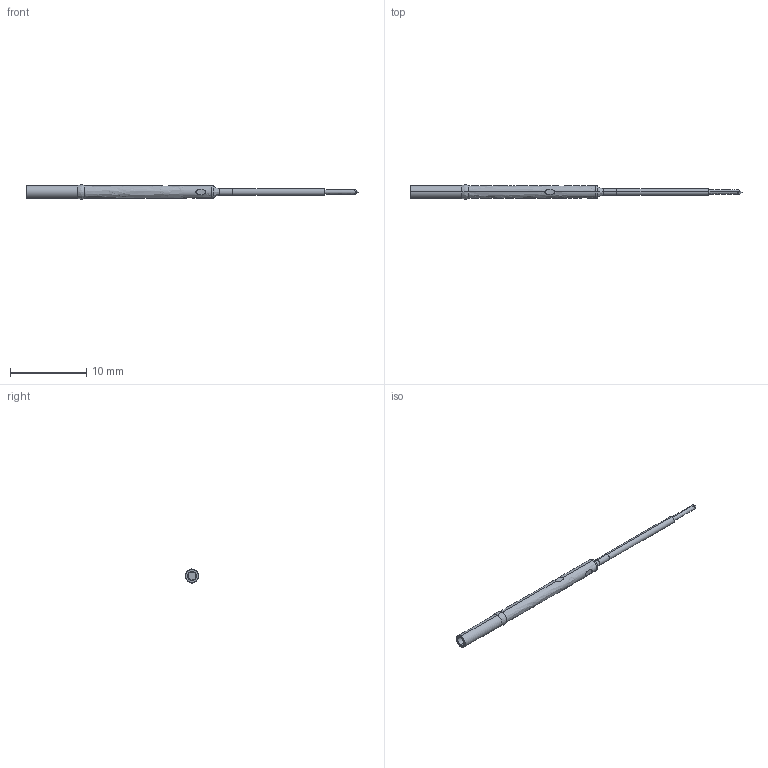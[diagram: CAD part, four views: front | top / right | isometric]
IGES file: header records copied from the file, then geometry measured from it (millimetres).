
Start section: SolidWorks IGES file using analytic representation for surfaces
Global section: file name: Z:\probe solid model mockups\Solidworks models\DER-100\DER-100T.IGS; native system: SolidWorks 2006 by SolidWorks Corporation; preprocessor: SolidWorks 2006 by SolidWorks Corporation; author: tsakatani; date: 071217.135232; units: inch
Bounding box: 43.43 x 1.86 x 1.88 mm (x, y, z)
Surface area: 270.9 mm2 (no closed solid volume)
Topology: 0 solids, 0 shells, 41 faces, 532 edges, 532 vertices
Faces by surface type: revolution 28, bspline 13
